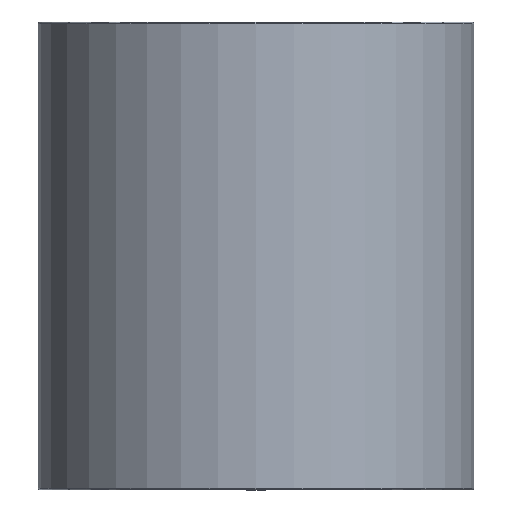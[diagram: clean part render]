
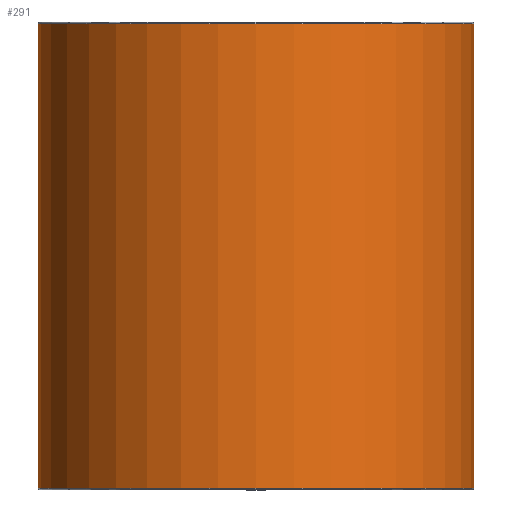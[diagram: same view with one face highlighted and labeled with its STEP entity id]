
A CAD part, front view. The second image highlights one B-rep face of the part: STEP entity #291.
In plain terms, the highlighted cylindrical face has radius 45.625 mm (diameter 91.25 mm), a partial arc.
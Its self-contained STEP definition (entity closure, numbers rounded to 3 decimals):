
#196=CARTESIAN_POINT('',(0.0,-45.625,55.1));
#197=VERTEX_POINT('',#196);
#223=CARTESIAN_POINT('',(-45.625,0.,55.1));
#224=VERTEX_POINT('',#223);
#232=CARTESIAN_POINT('',(0.0,0.,55.1));
#233=DIRECTION('',(0.0,0.0,1.0));
#234=DIRECTION('',(1.0,0.0,0.0));
#235=AXIS2_PLACEMENT_3D('',#232,#233,#234);
#236=CIRCLE('',#235,45.625);
#237=EDGE_CURVE('',#224,#197,#236,.T.);
#242=CARTESIAN_POINT('',(0.0,0.,6.5));
#243=DIRECTION('',(0.0,0.,1.0));
#244=DIRECTION('',(1.0,0.0,0.0));
#245=AXIS2_PLACEMENT_3D('',#242,#243,#244);
#246=CYLINDRICAL_SURFACE('',#245,45.625);
#247=CARTESIAN_POINT('',(45.625,0.,55.1));
#248=VERTEX_POINT('',#247);
#249=CARTESIAN_POINT('',(45.625,0.,-42.1));
#250=VERTEX_POINT('',#249);
#251=CARTESIAN_POINT('',(45.625,0.,55.1));
#252=DIRECTION('',(0.0,0.0,-1.0));
#253=VECTOR('',#252,97.2);
#254=LINE('',#251,#253);
#255=EDGE_CURVE('',#248,#250,#254,.T.);
#256=ORIENTED_EDGE('',*,*,#255,.F.);
#257=CARTESIAN_POINT('',(0.0,0.,55.1));
#258=DIRECTION('',(0.0,0.0,1.0));
#259=DIRECTION('',(1.0,0.0,0.0));
#260=AXIS2_PLACEMENT_3D('',#257,#258,#259);
#261=CIRCLE('',#260,45.625);
#262=EDGE_CURVE('',#197,#248,#261,.T.);
#263=ORIENTED_EDGE('',*,*,#262,.F.);
#264=ORIENTED_EDGE('',*,*,#237,.F.);
#265=CARTESIAN_POINT('',(-45.625,0.,-42.1));
#266=VERTEX_POINT('',#265);
#267=CARTESIAN_POINT('',(-45.625,0.,55.1));
#268=DIRECTION('',(0.0,0.0,-1.0));
#269=VECTOR('',#268,97.2);
#270=LINE('',#267,#269);
#271=EDGE_CURVE('',#224,#266,#270,.T.);
#272=ORIENTED_EDGE('',*,*,#271,.T.);
#273=CARTESIAN_POINT('',(0.0,-45.625,-42.1));
#274=VERTEX_POINT('',#273);
#275=CARTESIAN_POINT('',(0.0,0.,-42.1));
#276=DIRECTION('',(0.0,0.0,1.0));
#277=DIRECTION('',(1.0,0.0,0.0));
#278=AXIS2_PLACEMENT_3D('',#275,#276,#277);
#279=CIRCLE('',#278,45.625);
#280=EDGE_CURVE('',#266,#274,#279,.T.);
#281=ORIENTED_EDGE('',*,*,#280,.T.);
#282=CARTESIAN_POINT('',(0.0,0.,-42.1));
#283=DIRECTION('',(0.0,0.0,1.0));
#284=DIRECTION('',(1.0,0.0,0.0));
#285=AXIS2_PLACEMENT_3D('',#282,#283,#284);
#286=CIRCLE('',#285,45.625);
#287=EDGE_CURVE('',#274,#250,#286,.T.);
#288=ORIENTED_EDGE('',*,*,#287,.T.);
#289=EDGE_LOOP('',(#256,#263,#264,#272,#281,#288));
#290=FACE_OUTER_BOUND('',#289,.T.);
#291=ADVANCED_FACE('',(#290),#246,.T.);
